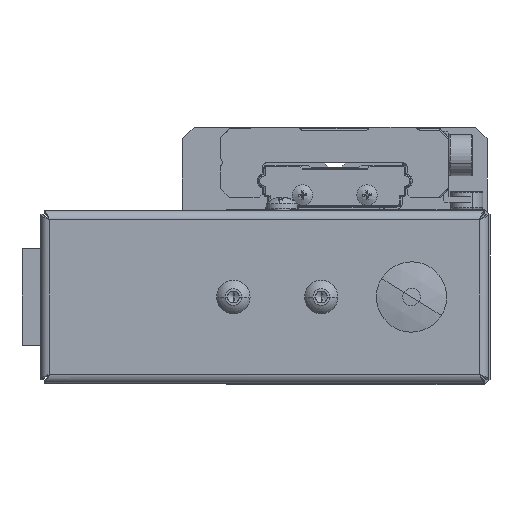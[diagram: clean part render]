
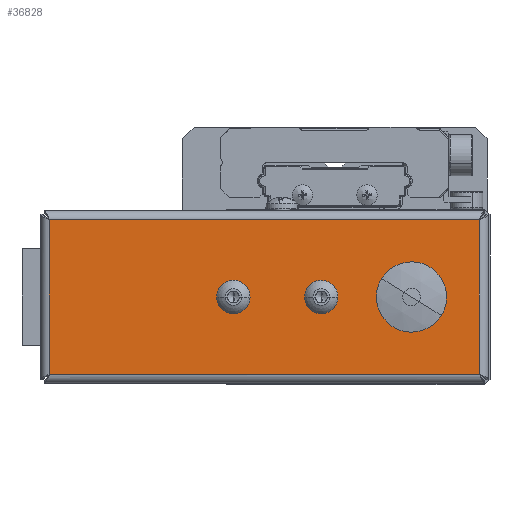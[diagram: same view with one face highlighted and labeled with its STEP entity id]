
A CAD part, left-side view. The second image highlights one B-rep face of the part: STEP entity #36828.
In plain terms, the highlighted planar face has unit normal (-1, 0, 0) as drawn and (0, 0, -1) by its records, which use the part's own axes.
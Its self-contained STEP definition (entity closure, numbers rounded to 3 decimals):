
#192 = AXIS2_PLACEMENT_3D ( 'NONE', #4629, #1537, #17652 ) ;
#653 = DIRECTION ( 'NONE',  ( -1., 0., 0. ) ) ;
#774 = EDGE_CURVE ( 'NONE', #25458, #23509, #27547, .T. ) ;
#1225 = ORIENTED_EDGE ( 'NONE', *, *, #774, .T. ) ;
#1537 = DIRECTION ( 'NONE',  ( 0., 0., -1. ) ) ;
#1570 = DIRECTION ( 'NONE',  ( 0., 0., -1. ) ) ;
#3428 = EDGE_CURVE ( 'NONE', #27950, #25458, #11431, .T. ) ;
#4629 = CARTESIAN_POINT ( 'NONE',  ( 63.3, 14.7, -0.5 ) ) ;
#5017 = VERTEX_POINT ( 'NONE', #35207 ) ;
#6685 = AXIS2_PLACEMENT_3D ( 'NONE', #30376, #11302, #14548 ) ;
#7465 = VECTOR ( 'NONE', #38001, 1000. ) ;
#7885 = ORIENTED_EDGE ( 'NONE', *, *, #3428, .T. ) ;
#9904 = EDGE_LOOP ( 'NONE', ( #36114, #39614, #7885, #1225 ) ) ;
#10289 = CIRCLE ( 'NONE', #6685, 3.8 ) ;
#10526 = CARTESIAN_POINT ( 'NONE',  ( 1.5, 1.5, -0.5 ) ) ;
#10942 = FACE_BOUND ( 'NONE', #33897, .T. ) ;
#11096 = LINE ( 'NONE', #24691, #26000 ) ;
#11302 = DIRECTION ( 'NONE',  ( 0., 0., -1. ) ) ;
#11368 = PLANE ( 'NONE',  #18868 ) ;
#11431 = LINE ( 'NONE', #25239, #7465 ) ;
#12171 = CARTESIAN_POINT ( 'NONE',  ( 67.1, 14.7, -0.5 ) ) ;
#14254 = VERTEX_POINT ( 'NONE', #12171 ) ;
#14548 = DIRECTION ( 'NONE',  ( -1., 0., 0. ) ) ;
#16224 = ORIENTED_EDGE ( 'NONE', *, *, #33017, .F. ) ;
#17652 = DIRECTION ( 'NONE',  ( -1., 0., 0. ) ) ;
#18868 = AXIS2_PLACEMENT_3D ( 'NONE', #36780, #1570, #33484 ) ;
#19609 = ORIENTED_EDGE ( 'NONE', *, *, #32560, .F. ) ;
#21272 = CIRCLE ( 'NONE', #192, 3.8 ) ;
#21418 = FACE_OUTER_BOUND ( 'NONE', #9904, .T. ) ;
#22086 = CARTESIAN_POINT ( 'NONE',  ( 59.5, 14.7, -0.5 ) ) ;
#23509 = VERTEX_POINT ( 'NONE', #40750 ) ;
#23542 = CARTESIAN_POINT ( 'NONE',  ( 75.829, 1.5, -0.5 ) ) ;
#24691 = CARTESIAN_POINT ( 'NONE',  ( 74.9, 28.829, -0.5 ) ) ;
#25239 = CARTESIAN_POINT ( 'NONE',  ( 1.5, 0.571, -0.5 ) ) ;
#25458 = VERTEX_POINT ( 'NONE', #32528 ) ;
#25606 = CARTESIAN_POINT ( 'NONE',  ( 0.571, 27.9, -0.5 ) ) ;
#26000 = VECTOR ( 'NONE', #36924, 1000. ) ;
#27547 = LINE ( 'NONE', #25606, #34013 ) ;
#27644 = EDGE_CURVE ( 'NONE', #23509, #5017, #11096, .T. ) ;
#27950 = VERTEX_POINT ( 'NONE', #10526 ) ;
#28779 = DIRECTION ( 'NONE',  ( 1., 0., 0. ) ) ;
#30376 = CARTESIAN_POINT ( 'NONE',  ( 63.3, 14.7, -0.5 ) ) ;
#30992 = LINE ( 'NONE', #23542, #37410 ) ;
#32528 = CARTESIAN_POINT ( 'NONE',  ( 1.5, 27.9, -0.5 ) ) ;
#32560 = EDGE_CURVE ( 'NONE', #14254, #37890, #21272, .T. ) ;
#33017 = EDGE_CURVE ( 'NONE', #37890, #14254, #10289, .T. ) ;
#33484 = DIRECTION ( 'NONE',  ( -1., 0., 0. ) ) ;
#33897 = EDGE_LOOP ( 'NONE', ( #16224, #19609 ) ) ;
#34013 = VECTOR ( 'NONE', #28779, 1000. ) ;
#35207 = CARTESIAN_POINT ( 'NONE',  ( 74.9, 1.5, -0.5 ) ) ;
#35227 = EDGE_CURVE ( 'NONE', #5017, #27950, #30992, .T. ) ;
#36114 = ORIENTED_EDGE ( 'NONE', *, *, #27644, .T. ) ;
#36780 = CARTESIAN_POINT ( 'NONE',  ( 0., 0., -0.5 ) ) ;
#36828 = ADVANCED_FACE ( 'NONE', ( #10942, #21418 ), #11368, .T. ) ;
#36924 = DIRECTION ( 'NONE',  ( 0., -1., 0. ) ) ;
#37410 = VECTOR ( 'NONE', #653, 1000. ) ;
#37890 = VERTEX_POINT ( 'NONE', #22086 ) ;
#38001 = DIRECTION ( 'NONE',  ( 0., 1., 0. ) ) ;
#39614 = ORIENTED_EDGE ( 'NONE', *, *, #35227, .T. ) ;
#40750 = CARTESIAN_POINT ( 'NONE',  ( 74.9, 27.9, -0.5 ) ) ;
